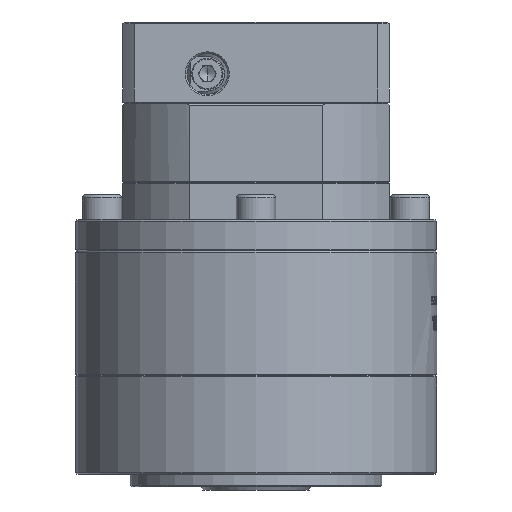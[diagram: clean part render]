
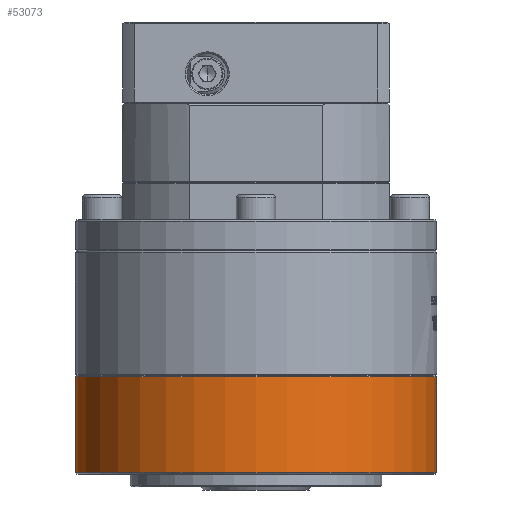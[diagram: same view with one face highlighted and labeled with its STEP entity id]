
A CAD part, left-side view. The second image highlights one B-rep face of the part: STEP entity #53073.
In plain terms, the highlighted cylindrical face has radius 57.5 mm (diameter 115 mm), a partial arc.
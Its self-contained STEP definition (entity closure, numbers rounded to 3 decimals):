
#1965 = DIRECTION ( 'NONE',  ( 0., -1., 0. ) ) ;
#14142 = VERTEX_POINT ( 'NONE', #80164 ) ;
#14351 = DIRECTION ( 'NONE',  ( 0., 1., 0. ) ) ;
#15271 = VERTEX_POINT ( 'NONE', #22036 ) ;
#17723 = CARTESIAN_POINT ( 'NONE',  ( 92.668, -69.295, -100.585 ) ) ;
#22036 = CARTESIAN_POINT ( 'NONE',  ( 92.668, -69.295, -131.085 ) ) ;
#22056 = ORIENTED_EDGE ( 'NONE', *, *, #77819, .T. ) ;
#22386 = DIRECTION ( 'NONE',  ( 0., 0., 1. ) ) ;
#22562 = EDGE_LOOP ( 'NONE', ( #34687, #53946, #22056, #91424 ) ) ;
#30898 = DIRECTION ( 'NONE',  ( 0., 0., 1. ) ) ;
#32520 = AXIS2_PLACEMENT_3D ( 'NONE', #48125, #22386, #85264 ) ;
#34687 = ORIENTED_EDGE ( 'NONE', *, *, #110115, .F. ) ;
#36398 = CIRCLE ( 'NONE', #53517, 57.5 ) ;
#39753 = VERTEX_POINT ( 'NONE', #17723 ) ;
#43802 = CYLINDRICAL_SURFACE ( 'NONE', #32520, 57.5 ) ;
#47002 = EDGE_CURVE ( 'NONE', #14142, #39753, #36398, .T. ) ;
#48125 = CARTESIAN_POINT ( 'NONE',  ( 92.668, -11.795, -118.585 ) ) ;
#52871 = CARTESIAN_POINT ( 'NONE',  ( 92.668, -69.295, -118.585 ) ) ;
#53073 = ADVANCED_FACE ( 'NONE', ( #73447 ), #43802, .T. ) ;
#53120 = AXIS2_PLACEMENT_3D ( 'NONE', #83496, #56204, #1965 ) ;
#53517 = AXIS2_PLACEMENT_3D ( 'NONE', #65233, #74306, #14351 ) ;
#53946 = ORIENTED_EDGE ( 'NONE', *, *, #72882, .T. ) ;
#56204 = DIRECTION ( 'NONE',  ( 0., 0., 1. ) ) ;
#61518 = CIRCLE ( 'NONE', #53120, 57.5 ) ;
#65233 = CARTESIAN_POINT ( 'NONE',  ( 92.668, -11.795, -100.585 ) ) ;
#66478 = CARTESIAN_POINT ( 'NONE',  ( 92.668, 45.705, -118.585 ) ) ;
#71568 = VECTOR ( 'NONE', #89649, 1000. ) ;
#72882 = EDGE_CURVE ( 'NONE', #85958, #15271, #61518, .T. ) ;
#73447 = FACE_OUTER_BOUND ( 'NONE', #22562, .T. ) ;
#74306 = DIRECTION ( 'NONE',  ( 0., 0., 1. ) ) ;
#77819 = EDGE_CURVE ( 'NONE', #15271, #39753, #78729, .T. ) ;
#78729 = LINE ( 'NONE', #52871, #71568 ) ;
#80164 = CARTESIAN_POINT ( 'NONE',  ( 92.668, 45.705, -100.585 ) ) ;
#82238 = LINE ( 'NONE', #66478, #86503 ) ;
#82614 = CARTESIAN_POINT ( 'NONE',  ( 92.668, 45.705, -131.085 ) ) ;
#83496 = CARTESIAN_POINT ( 'NONE',  ( 92.668, -11.795, -131.085 ) ) ;
#85264 = DIRECTION ( 'NONE',  ( 0., -1., 0. ) ) ;
#85958 = VERTEX_POINT ( 'NONE', #82614 ) ;
#86503 = VECTOR ( 'NONE', #30898, 1000. ) ;
#89649 = DIRECTION ( 'NONE',  ( 0., 0., 1. ) ) ;
#91424 = ORIENTED_EDGE ( 'NONE', *, *, #47002, .F. ) ;
#110115 = EDGE_CURVE ( 'NONE', #85958, #14142, #82238, .T. ) ;
